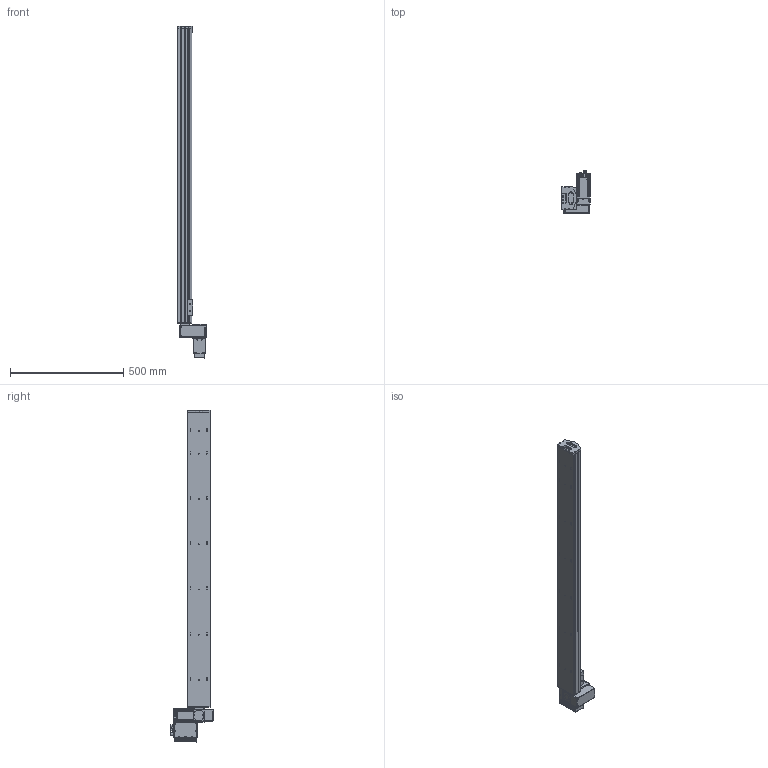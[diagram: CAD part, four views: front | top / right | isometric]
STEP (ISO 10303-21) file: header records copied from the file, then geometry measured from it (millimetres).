
FILE_DESCRIPTION (( 'STEP AP203' ), '1' );
FILE_NAME ('S10 TBN LT S1300.STEP', '2012-06-19T09:49:28', ( 'Conseil Régional Haute-Normandie' ), ( 'Conseil Régional Haute-Normandie' ), 'SwSTEP 2.0', 'SolidWorks 2010', '' );
FILE_SCHEMA (( 'CONFIG_CONTROL_DESIGN' ));
Length unit declared in the file: millimetre
Products named in the file (25): embout; axe 1300; cache t皻e_Default; BU45 Carte d''axe A11_5; Couvercle_3; Moteur 60BLDC90A_3; Radiateur profil_X2_00E9_X0_ 100x25_3; Colonnette ronde_3; T_X2_00F4_X0_le Arri_X2_00E8_X0_re_5; S10 TBN LT S1300; cache t皻e axe_Default; palette tbn; plaque de bout s10_Default; Plaque racord_Default; renvoi LH_Default; Assem1_7; T_X2_00F4_X0_le contre le moteur_5; BU41 Carte Alimentation P05_3; Colonnette_3; T_X2_00F4_X0_le fond_3; Connecteur rond D10 3cts_5; Connecteur rond D12 4cts_5; Sub D 9cts 90_X2_00B_X0__3; T_X2_00F4_X0_le lat_X2_00E9_X0_rale_5; Vis TF 3 torkx_1_1
Assembly tree (48 placements, depth 3):
  S10 TBN LT S1300
    cache t皻e_Default  x2
    embout
    cache t皻e axe_Default
    renvoi LH_Default
    Plaque racord_Default
    axe 1300
    palette tbn
    Assem1_7
      T_X2_00F4_X0_le fond_3
      Vis TF 3 torkx_1_1  x21
      Couvercle_3
      Connecteur rond D10 3cts_5  x2
      T_X2_00F4_X0_le Arri_X2_00E8_X0_re_5
      Colonnette_3  x2
      BU41 Carte Alimentation P05_3
      Colonnette ronde_3
      Moteur 60BLDC90A_3
      BU45 Carte d''axe A11_5
      Sub D 9cts 90_X2_00B_X0__3
      T_X2_00F4_X0_le lat_X2_00E9_X0_rale_5  x2
      T_X2_00F4_X0_le contre le moteur_5
      Radiateur profil_X2_00E9_X0_ 100x25_3
      Connecteur rond D12 4cts_5
    plaque de bout s10_Default
Bounding box: 127 x 186.1 x 1466.5 mm (x, y, z)
Volume: 7572607.2 mm3; surface area: 929039.6 mm2
Topology: 47 solids, 47 shells, 1950 faces, 4973 edges, 3242 vertices
Faces by surface type: cylinder 920, plane 869, cone 146, bspline 12, torus 3
Entity records: 44036 total; most frequent: CARTESIAN_POINT 7985, DIRECTION 7182, ORIENTED_EDGE 6542, EDGE_CURVE 3271, AXIS2_PLACEMENT_3D 2678, VERTEX_POINT 2146, VECTOR 1826, LINE 1826
